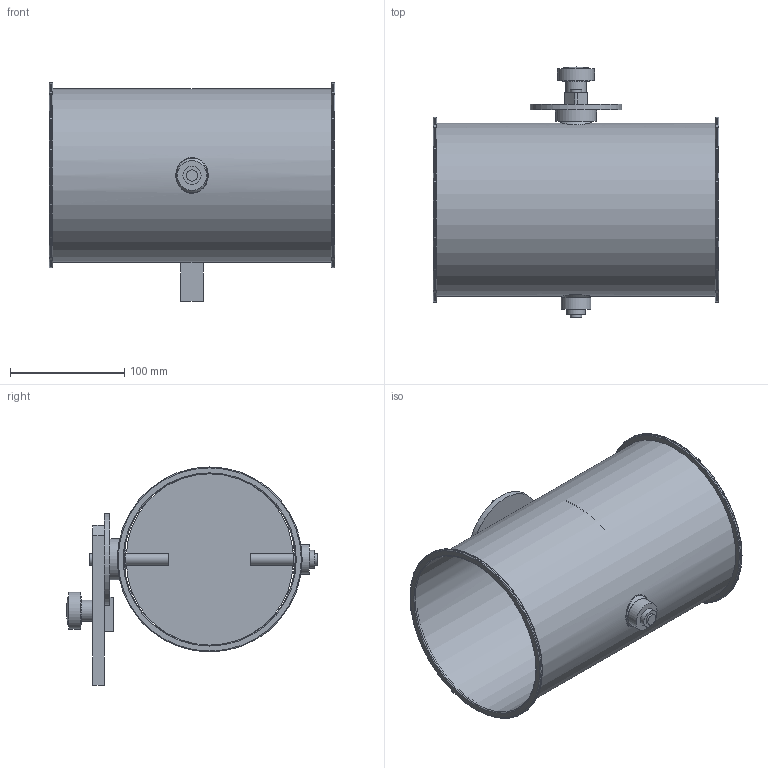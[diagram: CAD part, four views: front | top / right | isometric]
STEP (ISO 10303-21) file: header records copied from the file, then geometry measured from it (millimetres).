
FILE_DESCRIPTION(/* description */ (''),/* implementation_level */ '2;1');
FILE_NAME(/* name */ 'METU_Drosselklappe_Flansch_verzinkt_EA124-80B__150_L250_handbetaetigt.stp',/* time_stamp */ '2022-04-22T14:25:10+02:00',/* author */ (''),/* organization */ (''),/* preprocessor_version */ 'ST-DEVELOPER v11',/* originating_system */ 'SIEMENS UGS NX 6.0',/* authorisation */ '');
FILE_SCHEMA (('CONFIG_CONTROL_DESIGN'));
Length unit declared in the file: millimetre
Products named in the file (1): d.ga332Aq8zu
Bounding box: 250 x 218.97 x 191 mm (x, y, z)
Volume: 221529.8 mm3; surface area: 321497.9 mm2
Topology: 12 solids, 12 shells, 100 faces, 204 edges, 139 vertices
Faces by surface type: plane 46, cylinder 34, torus 10, cone 4, bspline 4, sphere 2
Full cylindrical faces by diameter (mm): 4.2 x1, 4.4 x4, 5 x1, 6 x1, 10 x5, 15 x3, 15.85 x2, 16 x2, 18.5 x1, 24 x2, 25 x1, 26 x1, 32.5 x1, 36 x1, 80 x1, 150 x1, 151.6 x1, 162 x2
Entity records: 2898 total; most frequent: CARTESIAN_POINT 945, DIRECTION 400, ORIENTED_EDGE 264, EDGE_LOOP 190, AXIS2_PLACEMENT_3D 179, FACE_BOUND 168, EDGE_CURVE 132, VERTEX_POINT 116
